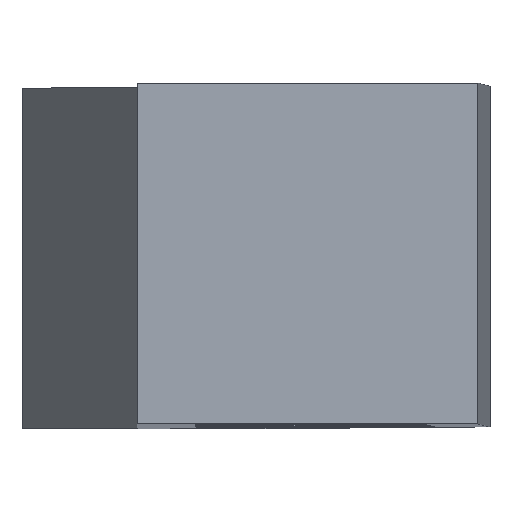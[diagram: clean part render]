
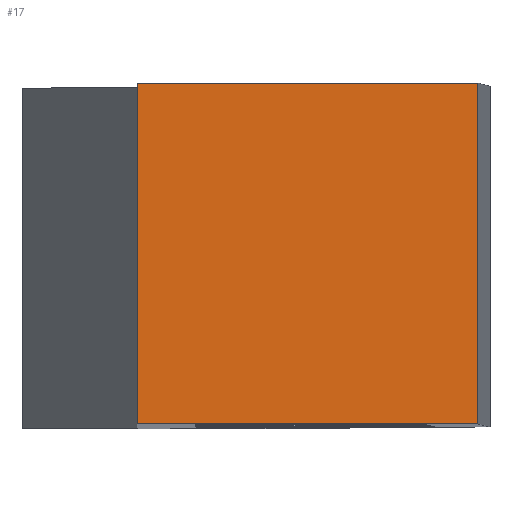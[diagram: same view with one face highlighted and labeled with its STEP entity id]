
A CAD part, top view. The second image highlights one B-rep face of the part: STEP entity #17.
In plain terms, the highlighted planar face has unit normal (0, 0, 1).
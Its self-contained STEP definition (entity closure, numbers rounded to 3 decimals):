
#17 = ADVANCED_FACE('',(#18),#32,.F.);
#18 = FACE_BOUND('',#19,.F.);
#19 = EDGE_LOOP('',(#20,#55,#83,#111));
#20 = ORIENTED_EDGE('',*,*,#21,.T.);
#21 = EDGE_CURVE('',#22,#24,#26,.T.);
#22 = VERTEX_POINT('',#23);
#23 = CARTESIAN_POINT('',(-3.997,-7.,-22.));
#24 = VERTEX_POINT('',#25);
#25 = CARTESIAN_POINT('',(-3.997,7.,-22.));
#26 = SURFACE_CURVE('',#27,(#31,#43),.PCURVE_S1.);
#27 = LINE('',#28,#29);
#28 = CARTESIAN_POINT('',(-3.997,-7.,-22.));
#29 = VECTOR('',#30,1.);
#30 = DIRECTION('',(-0.,1.,-0.));
#31 = PCURVE('',#32,#37);
#32 = PLANE('',#33);
#33 = AXIS2_PLACEMENT_3D('',#34,#35,#36);
#34 = CARTESIAN_POINT('',(-3.997,-7.,-22.));
#35 = DIRECTION('',(0.,0.,-1.));
#36 = DIRECTION('',(1.,0.,0.));
#37 = DEFINITIONAL_REPRESENTATION('',(#38),#42);
#38 = LINE('',#39,#40);
#39 = CARTESIAN_POINT('',(0.,0.));
#40 = VECTOR('',#41,1.);
#41 = DIRECTION('',(0.,-1.));
#42 = ( GEOMETRIC_REPRESENTATION_CONTEXT(2) 
PARAMETRIC_REPRESENTATION_CONTEXT() REPRESENTATION_CONTEXT('2D SPACE',''
  ) );
#43 = PCURVE('',#44,#49);
#44 = PLANE('',#45);
#45 = AXIS2_PLACEMENT_3D('',#46,#47,#48);
#46 = CARTESIAN_POINT('',(-3.997,-7.,-122.5));
#47 = DIRECTION('',(1.,0.,-0.));
#48 = DIRECTION('',(0.,0.,1.));
#49 = DEFINITIONAL_REPRESENTATION('',(#50),#54);
#50 = LINE('',#51,#52);
#51 = CARTESIAN_POINT('',(100.5,0.));
#52 = VECTOR('',#53,1.);
#53 = DIRECTION('',(0.,-1.));
#54 = ( GEOMETRIC_REPRESENTATION_CONTEXT(2) 
PARAMETRIC_REPRESENTATION_CONTEXT() REPRESENTATION_CONTEXT('2D SPACE',''
  ) );
#55 = ORIENTED_EDGE('',*,*,#56,.T.);
#56 = EDGE_CURVE('',#24,#57,#59,.T.);
#57 = VERTEX_POINT('',#58);
#58 = CARTESIAN_POINT('',(10.,7.,-22.));
#59 = SURFACE_CURVE('',#60,(#64,#71),.PCURVE_S1.);
#60 = LINE('',#61,#62);
#61 = CARTESIAN_POINT('',(-3.997,7.,-22.));
#62 = VECTOR('',#63,1.);
#63 = DIRECTION('',(1.,0.,0.));
#64 = PCURVE('',#32,#65);
#65 = DEFINITIONAL_REPRESENTATION('',(#66),#70);
#66 = LINE('',#67,#68);
#67 = CARTESIAN_POINT('',(0.,-14.));
#68 = VECTOR('',#69,1.);
#69 = DIRECTION('',(1.,0.));
#70 = ( GEOMETRIC_REPRESENTATION_CONTEXT(2) 
PARAMETRIC_REPRESENTATION_CONTEXT() REPRESENTATION_CONTEXT('2D SPACE',''
  ) );
#71 = PCURVE('',#72,#77);
#72 = PLANE('',#73);
#73 = AXIS2_PLACEMENT_3D('',#74,#75,#76);
#74 = CARTESIAN_POINT('',(1.781,7.,-81.128));
#75 = DIRECTION('',(0.,1.,0.));
#76 = DIRECTION('',(0.,-0.,1.));
#77 = DEFINITIONAL_REPRESENTATION('',(#78),#82);
#78 = LINE('',#79,#80);
#79 = CARTESIAN_POINT('',(59.128,-5.779));
#80 = VECTOR('',#81,1.);
#81 = DIRECTION('',(0.,1.));
#82 = ( GEOMETRIC_REPRESENTATION_CONTEXT(2) 
PARAMETRIC_REPRESENTATION_CONTEXT() REPRESENTATION_CONTEXT('2D SPACE',''
  ) );
#83 = ORIENTED_EDGE('',*,*,#84,.F.);
#84 = EDGE_CURVE('',#85,#57,#87,.T.);
#85 = VERTEX_POINT('',#86);
#86 = CARTESIAN_POINT('',(10.,-7.,-22.));
#87 = SURFACE_CURVE('',#88,(#92,#99),.PCURVE_S1.);
#88 = LINE('',#89,#90);
#89 = CARTESIAN_POINT('',(10.,-7.,-22.));
#90 = VECTOR('',#91,1.);
#91 = DIRECTION('',(-0.,1.,-0.));
#92 = PCURVE('',#32,#93);
#93 = DEFINITIONAL_REPRESENTATION('',(#94),#98);
#94 = LINE('',#95,#96);
#95 = CARTESIAN_POINT('',(13.997,0.));
#96 = VECTOR('',#97,1.);
#97 = DIRECTION('',(0.,-1.));
#98 = ( GEOMETRIC_REPRESENTATION_CONTEXT(2) 
PARAMETRIC_REPRESENTATION_CONTEXT() REPRESENTATION_CONTEXT('2D SPACE',''
  ) );
#99 = PCURVE('',#100,#105);
#100 = PLANE('',#101);
#101 = AXIS2_PLACEMENT_3D('',#102,#103,#104);
#102 = CARTESIAN_POINT('',(10.,-7.,-22.));
#103 = DIRECTION('',(-1.,-0.,-0.007));
#104 = DIRECTION('',(0.007,0.,-1.));
#105 = DEFINITIONAL_REPRESENTATION('',(#106),#110);
#106 = LINE('',#107,#108);
#107 = CARTESIAN_POINT('',(0.,0.));
#108 = VECTOR('',#109,1.);
#109 = DIRECTION('',(0.,-1.));
#110 = ( GEOMETRIC_REPRESENTATION_CONTEXT(2) 
PARAMETRIC_REPRESENTATION_CONTEXT() REPRESENTATION_CONTEXT('2D SPACE',''
  ) );
#111 = ORIENTED_EDGE('',*,*,#112,.F.);
#112 = EDGE_CURVE('',#22,#85,#113,.T.);
#113 = SURFACE_CURVE('',#114,(#118,#125),.PCURVE_S1.);
#114 = LINE('',#115,#116);
#115 = CARTESIAN_POINT('',(-3.997,-7.,-22.));
#116 = VECTOR('',#117,1.);
#117 = DIRECTION('',(1.,0.,0.));
#118 = PCURVE('',#32,#119);
#119 = DEFINITIONAL_REPRESENTATION('',(#120),#124);
#120 = LINE('',#121,#122);
#121 = CARTESIAN_POINT('',(0.,0.));
#122 = VECTOR('',#123,1.);
#123 = DIRECTION('',(1.,0.));
#124 = ( GEOMETRIC_REPRESENTATION_CONTEXT(2) 
PARAMETRIC_REPRESENTATION_CONTEXT() REPRESENTATION_CONTEXT('2D SPACE',''
  ) );
#125 = PCURVE('',#126,#131);
#126 = PLANE('',#127);
#127 = AXIS2_PLACEMENT_3D('',#128,#129,#130);
#128 = CARTESIAN_POINT('',(1.781,-7.,-81.128));
#129 = DIRECTION('',(0.,1.,0.));
#130 = DIRECTION('',(0.,-0.,1.));
#131 = DEFINITIONAL_REPRESENTATION('',(#132),#136);
#132 = LINE('',#133,#134);
#133 = CARTESIAN_POINT('',(59.128,-5.779));
#134 = VECTOR('',#135,1.);
#135 = DIRECTION('',(0.,1.));
#136 = ( GEOMETRIC_REPRESENTATION_CONTEXT(2) 
PARAMETRIC_REPRESENTATION_CONTEXT() REPRESENTATION_CONTEXT('2D SPACE',''
  ) );
